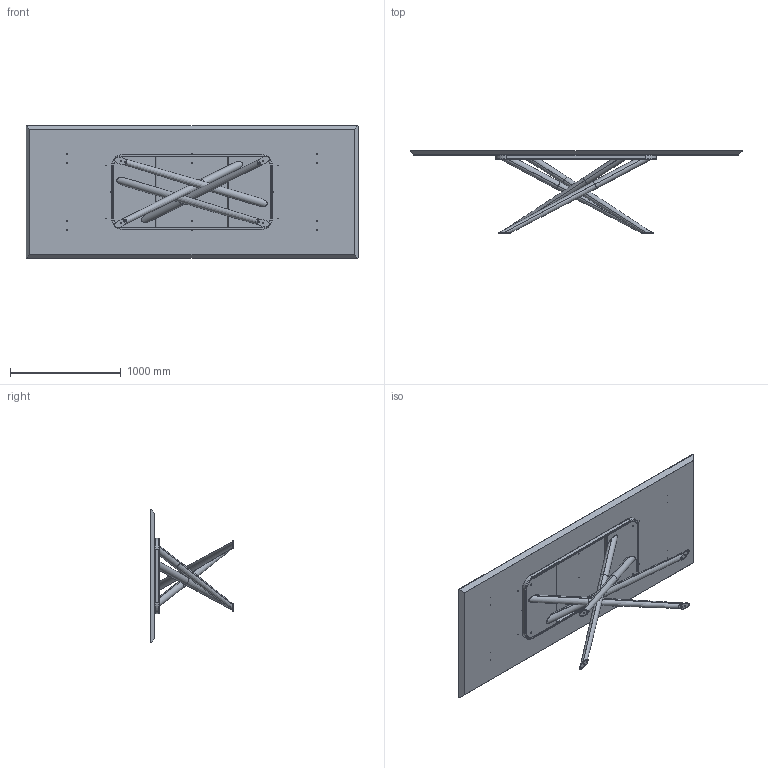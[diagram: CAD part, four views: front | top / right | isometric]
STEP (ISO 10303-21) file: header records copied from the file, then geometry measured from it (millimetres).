
FILE_DESCRIPTION (( 'STEP AP203' ), '1' );
FILE_NAME ('BA23W.STEP', '2024-08-08T06:00:06', ( '' ), ( '' ), 'SwSTEP 2.0', 'SolidWorks 2022', '' );
FILE_SCHEMA (( 'CONFIG_CONTROL_DESIGN' ));
Length unit declared in the file: millimetre
Products named in the file (8): M6xXXmm_HEX_M6x30mm HEX; BAB100000-00-BALY BASE GREZZA L240 rettangolare; TR Fastenings Ltd-M6_M6; BAB100000_01-00-Gambe saldate BALY 240_Default<A macchina>; W2XCMXX-00-Piani Rettangolari in legno_3000 x 1200; BAB100000_02-00-piede per baly 240; BA23W; BAB100000_03-00-Telaio BALY L240_Default<A macchina>
Assembly tree (18 placements, depth 3):
  BA23W
    W2XCMXX-00-Piani Rettangolari in legno_3000 x 1200
    BAB100000-00-BALY BASE GREZZA L240 rettangolare
      BAB100000_01-00-Gambe saldate BALY 240_Default<A macchina>
      BAB100000_03-00-Telaio BALY L240_Default<A macchina>
      BAB100000_02-00-piede per baly 240  x4
      TR Fastenings Ltd-M6_M6  x2
      M6xXXmm_HEX_M6x30mm HEX  x8
Bounding box: 3000 x 747 x 1200 mm (x, y, z)
Volume: 137495720 mm3; surface area: 11583216.4 mm2
Topology: 27 solids, 27 shells, 696 faces, 1470 edges, 803 vertices
Faces by surface type: plane 294, cylinder 210, cone 126, torus 48, bspline 18
Entity records: 11978 total; most frequent: CARTESIAN_POINT 2088, DIRECTION 1960, ORIENTED_EDGE 1700, EDGE_CURVE 850, AXIS2_PLACEMENT_3D 758, VERTEX_POINT 494, EDGE_LOOP 464, LINE 444
